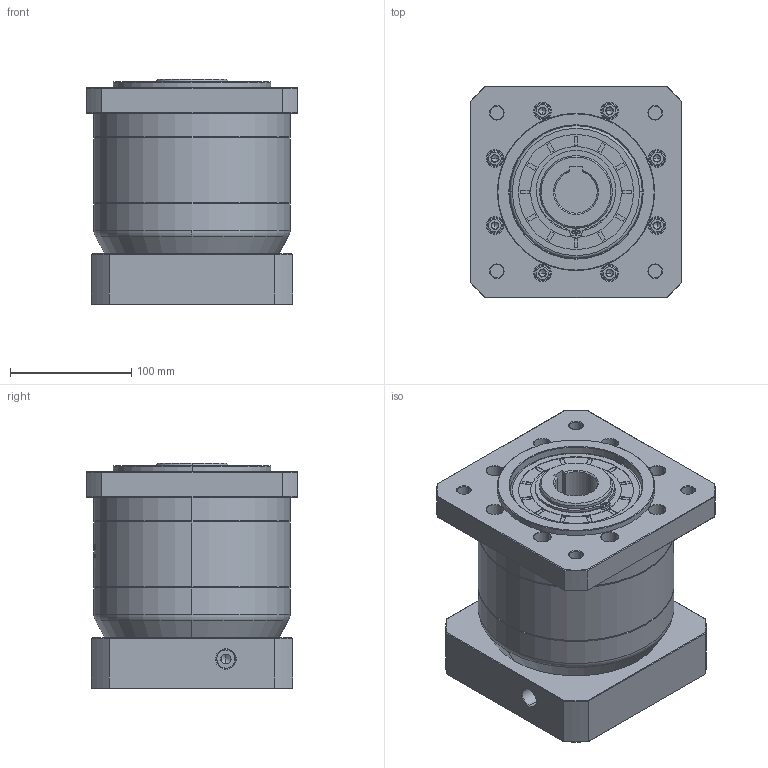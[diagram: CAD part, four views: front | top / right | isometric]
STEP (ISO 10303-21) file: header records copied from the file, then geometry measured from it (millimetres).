
FILE_DESCRIPTION (( 'STEP AP214' ), '1' );
FILE_NAME ('ZF160-K35-L1-28-130-165-M10.step', '2023-03-21T04:31:28', ( '' ), ( '' ), 'SwSTEP 2.0', 'SolidWorks 2016', '' );
FILE_SCHEMA (( 'AUTOMOTIVE_DESIGN' ));
Length unit declared in the file: millimetre
Products named in the file (1): ZF160-K35-L1-28-130-165-M10
Bounding box: 175 x 175 x 186.2 mm (x, y, z)
Volume: 3732327.3 mm3; surface area: 319575.5 mm2
Topology: 6 solids, 6 shells, 1577 faces, 4103 edges, 2632 vertices
Faces by surface type: plane 636, cylinder 389, cone 319, bspline 211, torus 22
Entity records: 86487 total; most frequent: CARTESIAN_POINT 32510, ORIENTED_EDGE 8150, DIRECTION 6953, EDGE_CURVE 4075, VERTEX_POINT 2632, AXIS2_PLACEMENT_3D 2411, VECTOR 2131, LINE 2131
